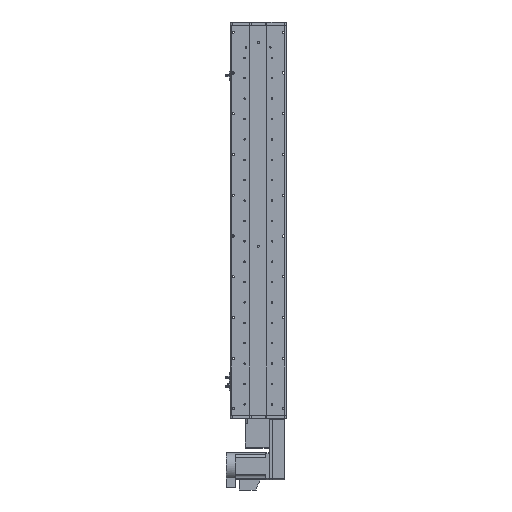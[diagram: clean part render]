
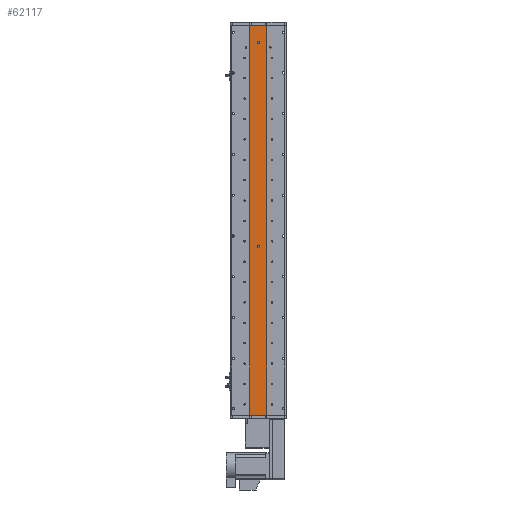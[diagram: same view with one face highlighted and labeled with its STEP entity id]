
A CAD part, front view. The second image highlights one B-rep face of the part: STEP entity #62117.
In plain terms, the highlighted planar face has unit normal (0, -1, 0).
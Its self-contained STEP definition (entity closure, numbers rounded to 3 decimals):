
#755 = ORIENTED_EDGE ( 'NONE', *, *, #23984, .T. ) ;
#1791 = DIRECTION ( 'NONE',  ( 0., 0., 1. ) ) ;
#3670 = LINE ( 'NONE', #53467, #27025 ) ;
#4035 = CARTESIAN_POINT ( 'NONE',  ( -25., 1., 573.5 ) ) ;
#4959 = CARTESIAN_POINT ( 'NONE',  ( 0., 1., 526.5 ) ) ;
#5248 = VERTEX_POINT ( 'NONE', #13828 ) ;
#5936 = VERTEX_POINT ( 'NONE', #4035 ) ;
#7088 = LINE ( 'NONE', #63633, #45368 ) ;
#7541 = CARTESIAN_POINT ( 'NONE',  ( 25., 1., -573.5 ) ) ;
#12503 = VERTEX_POINT ( 'NONE', #4959 ) ;
#12651 = AXIS2_PLACEMENT_3D ( 'NONE', #23565, #58503, #28623 ) ;
#13828 = CARTESIAN_POINT ( 'NONE',  ( 0., 1., -79.5 ) ) ;
#13990 = EDGE_LOOP ( 'NONE', ( #54802, #50515 ) ) ;
#15103 = VECTOR ( 'NONE', #33499, 1000. ) ;
#15177 = DIRECTION ( 'NONE',  ( 0., -1., 0. ) ) ;
#15678 = EDGE_CURVE ( 'NONE', #28904, #32016, #24033, .T. ) ;
#16569 = CARTESIAN_POINT ( 'NONE',  ( 25., 1., 573.5 ) ) ;
#17360 = CIRCLE ( 'NONE', #34249, 3. ) ;
#21529 = PLANE ( 'NONE',  #58113 ) ;
#22786 = EDGE_LOOP ( 'NONE', ( #25826, #33069 ) ) ;
#23034 = CIRCLE ( 'NONE', #63876, 3. ) ;
#23565 = CARTESIAN_POINT ( 'NONE',  ( 0., 1., 523.5 ) ) ;
#23984 = EDGE_CURVE ( 'NONE', #5936, #30251, #3670, .T. ) ;
#24033 = LINE ( 'NONE', #54518, #47495 ) ;
#24418 = CIRCLE ( 'NONE', #46895, 3. ) ;
#25131 = CARTESIAN_POINT ( 'NONE',  ( -25., 1., -573.5 ) ) ;
#25535 = DIRECTION ( 'NONE',  ( 0., -1., 0. ) ) ;
#25826 = ORIENTED_EDGE ( 'NONE', *, *, #50504, .F. ) ;
#26780 = DIRECTION ( 'NONE',  ( 0., -1., 0. ) ) ;
#26980 = VERTEX_POINT ( 'NONE', #29298 ) ;
#27025 = VECTOR ( 'NONE', #58472, 1000. ) ;
#28394 = LINE ( 'NONE', #7541, #15103 ) ;
#28623 = DIRECTION ( 'NONE',  ( 0., 0., -1. ) ) ;
#28904 = VERTEX_POINT ( 'NONE', #61534 ) ;
#29298 = CARTESIAN_POINT ( 'NONE',  ( 0., 1., 520.5 ) ) ;
#30251 = VERTEX_POINT ( 'NONE', #25131 ) ;
#31183 = VERTEX_POINT ( 'NONE', #42064 ) ;
#31632 = DIRECTION ( 'NONE',  ( 0., 1., 0. ) ) ;
#32016 = VERTEX_POINT ( 'NONE', #55343 ) ;
#33069 = ORIENTED_EDGE ( 'NONE', *, *, #42014, .F. ) ;
#33092 = EDGE_CURVE ( 'NONE', #5248, #31183, #17360, .T. ) ;
#33172 = CIRCLE ( 'NONE', #12651, 3. ) ;
#33499 = DIRECTION ( 'NONE',  ( 1., 0., 0. ) ) ;
#34249 = AXIS2_PLACEMENT_3D ( 'NONE', #55433, #25535, #60438 ) ;
#39953 = DIRECTION ( 'NONE',  ( 0., 0., -1. ) ) ;
#42014 = EDGE_CURVE ( 'NONE', #12503, #26980, #24418, .T. ) ;
#42064 = CARTESIAN_POINT ( 'NONE',  ( 0., 1., -73.5 ) ) ;
#43951 = EDGE_LOOP ( 'NONE', ( #54627, #61409, #63841, #755 ) ) ;
#45099 = CARTESIAN_POINT ( 'NONE',  ( 0., 1., 523.5 ) ) ;
#45145 = FACE_OUTER_BOUND ( 'NONE', #43951, .T. ) ;
#45368 = VECTOR ( 'NONE', #48589, 1000. ) ;
#46703 = FACE_BOUND ( 'NONE', #13990, .T. ) ;
#46895 = AXIS2_PLACEMENT_3D ( 'NONE', #45099, #15177, #50131 ) ;
#47495 = VECTOR ( 'NONE', #39953, 1000. ) ;
#48589 = DIRECTION ( 'NONE',  ( 1., 0., 0. ) ) ;
#50131 = DIRECTION ( 'NONE',  ( 0., 0., -1. ) ) ;
#50504 = EDGE_CURVE ( 'NONE', #26980, #12503, #33172, .T. ) ;
#50515 = ORIENTED_EDGE ( 'NONE', *, *, #59818, .F. ) ;
#53060 = EDGE_CURVE ( 'NONE', #5936, #28904, #7088, .T. ) ;
#53467 = CARTESIAN_POINT ( 'NONE',  ( -25., 1., 573.5 ) ) ;
#54518 = CARTESIAN_POINT ( 'NONE',  ( 25., 1., 573.5 ) ) ;
#54627 = ORIENTED_EDGE ( 'NONE', *, *, #55444, .T. ) ;
#54802 = ORIENTED_EDGE ( 'NONE', *, *, #33092, .F. ) ;
#55343 = CARTESIAN_POINT ( 'NONE',  ( 25., 1., -573.5 ) ) ;
#55433 = CARTESIAN_POINT ( 'NONE',  ( 0., 1., -76.5 ) ) ;
#55444 = EDGE_CURVE ( 'NONE', #30251, #32016, #28394, .T. ) ;
#56672 = CARTESIAN_POINT ( 'NONE',  ( 0., 1., -76.5 ) ) ;
#58113 = AXIS2_PLACEMENT_3D ( 'NONE', #16569, #31632, #1791 ) ;
#58472 = DIRECTION ( 'NONE',  ( 0., 0., -1. ) ) ;
#58503 = DIRECTION ( 'NONE',  ( 0., -1., 0. ) ) ;
#59818 = EDGE_CURVE ( 'NONE', #31183, #5248, #23034, .T. ) ;
#59921 = FACE_BOUND ( 'NONE', #22786, .T. ) ;
#60438 = DIRECTION ( 'NONE',  ( 0., 0., -1. ) ) ;
#61409 = ORIENTED_EDGE ( 'NONE', *, *, #15678, .F. ) ;
#61534 = CARTESIAN_POINT ( 'NONE',  ( 25., 1., 573.5 ) ) ;
#61689 = DIRECTION ( 'NONE',  ( 0., 0., -1. ) ) ;
#62117 = ADVANCED_FACE ( 'NONE', ( #59921, #46703, #45145 ), #21529, .F. ) ;
#63633 = CARTESIAN_POINT ( 'NONE',  ( 25., 1., 573.5 ) ) ;
#63841 = ORIENTED_EDGE ( 'NONE', *, *, #53060, .F. ) ;
#63876 = AXIS2_PLACEMENT_3D ( 'NONE', #56672, #26780, #61689 ) ;
